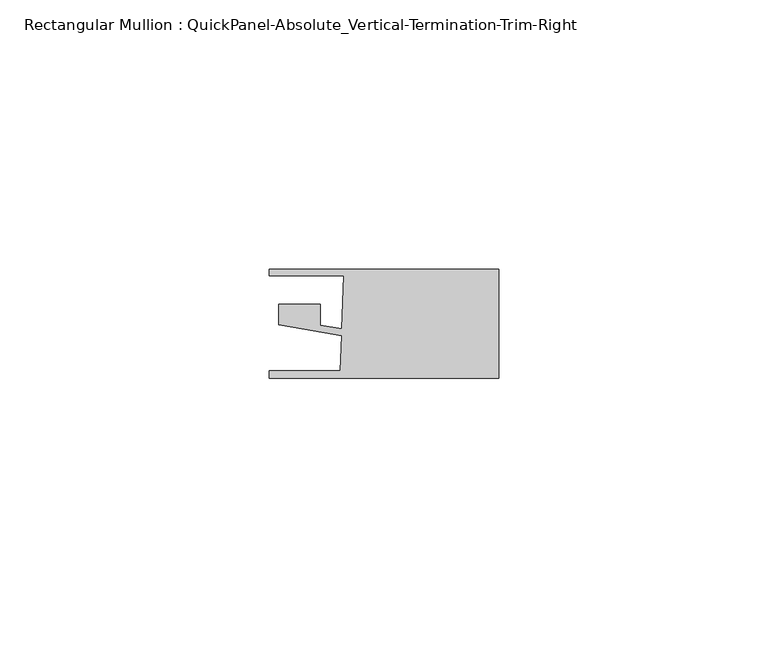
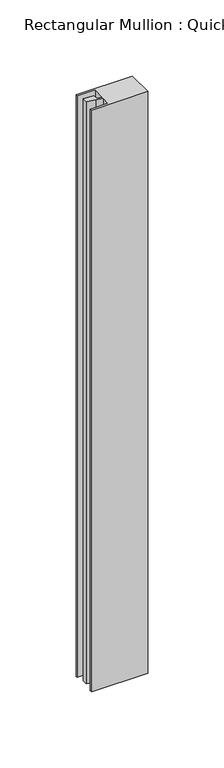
"""IFC4 building model written with IfcOpenShell, lengths in millimetres: member geometry, Rectangular Mullion : QuickPanel-Absolute_Vertical-Termination-Trim-Right."""

from ifc_helpers import new_model, si_unit, frame, origin, place, context, project, spatial, polyline, outline, extrude, source, transform, mapped, element, save


def rectangular_mullion_quickpanel_absolute_vertical_termination_7cd4f9f9(model_context):
    return source(origin(), model_context, "Body", "SweptSolid", [
        extrude(outline(polyline([(-42.7011763, -8.095605), (-42.7011763, -6.6935423), (-29.4602636, -6.6935423), (-29.2334784, -0.1992641), (-34.4837593, 0.7008023), (-40.919092, 1.8040245), (-40.919092, 5.6493034), (-33.1743189, 5.6493034), (-33.1743189, 1.7648465), (-29.1887499, 1.0815922), (-28.8448229, 10.9303752), (-42.7011763, 10.9303752), (-42.7011763, 12.1803727), (0.0, 12.1803727), (0.0, -8.095605), (-42.7011763, -8.095605)])), frame((0.0, 0.0, -466.5413759), z_axis=(0.0, 0.0, 1.0), x_axis=(1.0, 0.0, 0.0)), (0.0, 0.0, 1.0), 466.5413759),
    ])


if __name__ == "__main__":
    model = new_model("IFC4")
    model_context = context("Model", 3, world=origin())
    ifc_project = project(units=[si_unit("LENGTHUNIT", "METRE", prefix="MILLI")], contexts=[model_context])
    site = spatial("IfcSite", under=ifc_project)
    building = spatial("IfcBuilding", under=site)
    placement = place(None, origin())
    rectangular_mullion_quickpanel_absolute_vertical_termination_shape = rectangular_mullion_quickpanel_absolute_vertical_termination_7cd4f9f9(model_context)
    element("IfcMember", 1, ObjectType="Rectangular Mullion : QuickPanel-Absolute_Vertical-Termination-Trim-Right", at=placement, inside=building, context=model_context, shape_type="MappedRepresentation", body=[
        mapped(rectangular_mullion_quickpanel_absolute_vertical_termination_shape, transform((0.0, 0.0, 0.0), x_axis=(1.0, 0.0, 0.0), y_axis=(0.0, 1.0, 0.0), z_axis=(0.0, 0.0, 1.0))),
    ])
    save(model, "model.ifc")
